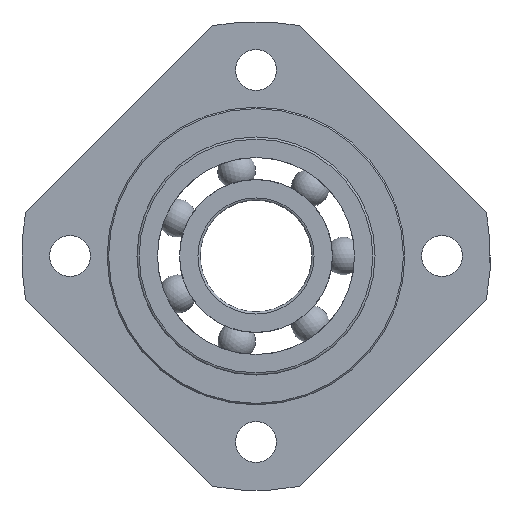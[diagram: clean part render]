
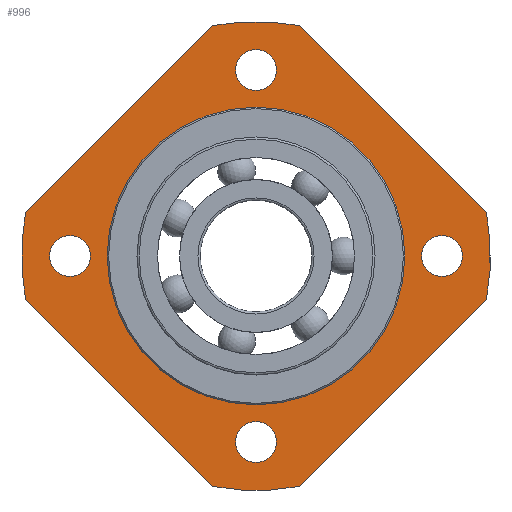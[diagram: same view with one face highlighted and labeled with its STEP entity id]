
A CAD part, left-side view. The second image highlights one B-rep face of the part: STEP entity #996.
In plain terms, the highlighted planar face has unit normal (-1, 0, 0).
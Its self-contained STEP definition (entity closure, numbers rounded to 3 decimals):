
#69=LINE('',#1687,#89);
#73=LINE('',#1696,#93);
#78=LINE('',#1736,#98);
#79=LINE('',#1737,#99);
#89=VECTOR('',#1310,35.567);
#93=VECTOR('',#1320,35.567);
#98=VECTOR('',#1371,35.567);
#99=VECTOR('',#1372,35.567);
#112=PLANE('',#1109);
#164=FACE_BOUND('',#324,.T.);
#165=FACE_BOUND('',#325,.T.);
#166=FACE_BOUND('',#326,.T.);
#167=FACE_BOUND('',#327,.T.);
#168=FACE_BOUND('',#328,.T.);
#232=FACE_OUTER_BOUND('',#323,.T.);
#323=EDGE_LOOP('',(#795,#796,#797,#798,#799,#800,#801,#802));
#324=EDGE_LOOP('',(#803));
#325=EDGE_LOOP('',(#804));
#326=EDGE_LOOP('',(#805));
#327=EDGE_LOOP('',(#806));
#328=EDGE_LOOP('',(#807));
#389=CIRCLE('',#1041,20.);
#412=CIRCLE('',#1085,31.5);
#413=CIRCLE('',#1088,31.5);
#415=CIRCLE('',#1092,2.75);
#417=CIRCLE('',#1096,2.75);
#419=CIRCLE('',#1100,2.75);
#421=CIRCLE('',#1104,2.75);
#422=CIRCLE('',#1106,31.5);
#423=CIRCLE('',#1108,31.5);
#480=VERTEX_POINT('',#1570);
#511=VERTEX_POINT('',#1684);
#512=VERTEX_POINT('',#1686);
#513=VERTEX_POINT('',#1690);
#514=VERTEX_POINT('',#1694);
#515=VERTEX_POINT('',#1698);
#517=VERTEX_POINT('',#1705);
#519=VERTEX_POINT('',#1711);
#521=VERTEX_POINT('',#1717);
#523=VERTEX_POINT('',#1723);
#524=VERTEX_POINT('',#1726);
#525=VERTEX_POINT('',#1730);
#526=VERTEX_POINT('',#1732);
#569=EDGE_CURVE('',#480,#480,#389,.T.);
#609=EDGE_CURVE('',#511,#512,#69,.T.);
#612=EDGE_CURVE('',#511,#513,#412,.T.);
#614=EDGE_CURVE('',#514,#513,#73,.T.);
#616=EDGE_CURVE('',#514,#515,#413,.T.);
#618=EDGE_CURVE('',#517,#517,#415,.T.);
#620=EDGE_CURVE('',#519,#519,#417,.T.);
#622=EDGE_CURVE('',#521,#521,#419,.T.);
#624=EDGE_CURVE('',#523,#523,#421,.T.);
#625=EDGE_CURVE('',#524,#512,#422,.T.);
#628=EDGE_CURVE('',#526,#525,#423,.T.);
#630=EDGE_CURVE('',#526,#515,#78,.T.);
#631=EDGE_CURVE('',#524,#525,#79,.T.);
#795=ORIENTED_EDGE('',*,*,#612,.T.);
#796=ORIENTED_EDGE('',*,*,#614,.F.);
#797=ORIENTED_EDGE('',*,*,#616,.T.);
#798=ORIENTED_EDGE('',*,*,#630,.F.);
#799=ORIENTED_EDGE('',*,*,#628,.T.);
#800=ORIENTED_EDGE('',*,*,#631,.F.);
#801=ORIENTED_EDGE('',*,*,#625,.T.);
#802=ORIENTED_EDGE('',*,*,#609,.F.);
#803=ORIENTED_EDGE('',*,*,#569,.T.);
#804=ORIENTED_EDGE('',*,*,#618,.T.);
#805=ORIENTED_EDGE('',*,*,#620,.T.);
#806=ORIENTED_EDGE('',*,*,#622,.T.);
#807=ORIENTED_EDGE('',*,*,#624,.T.);
#996=ADVANCED_FACE('',(#232,#164,#165,#166,#167,#168),#112,.F.);
#1041=AXIS2_PLACEMENT_3D('',#1571,#1215,#1216);
#1085=AXIS2_PLACEMENT_3D('',#1692,#1315,#1316);
#1088=AXIS2_PLACEMENT_3D('',#1700,#1324,#1325);
#1092=AXIS2_PLACEMENT_3D('',#1706,#1332,#1333);
#1096=AXIS2_PLACEMENT_3D('',#1712,#1340,#1341);
#1100=AXIS2_PLACEMENT_3D('',#1718,#1348,#1349);
#1104=AXIS2_PLACEMENT_3D('',#1724,#1356,#1357);
#1106=AXIS2_PLACEMENT_3D('',#1727,#1360,#1361);
#1108=AXIS2_PLACEMENT_3D('',#1733,#1366,#1367);
#1109=AXIS2_PLACEMENT_3D('',#1735,#1369,#1370);
#1215=DIRECTION('center_axis',(1.,0.,0.));
#1216=DIRECTION('ref_axis',(0.,0.,-1.));
#1310=DIRECTION('',(0.,0.707,-0.707));
#1315=DIRECTION('center_axis',(-1.,0.,0.));
#1316=DIRECTION('ref_axis',(0.,0.,1.));
#1320=DIRECTION('',(0.,-0.707,-0.707));
#1324=DIRECTION('center_axis',(-1.,0.,0.));
#1325=DIRECTION('ref_axis',(0.,0.,1.));
#1332=DIRECTION('center_axis',(1.,0.,0.));
#1333=DIRECTION('ref_axis',(0.,0.,-1.));
#1340=DIRECTION('center_axis',(1.,0.,0.));
#1341=DIRECTION('ref_axis',(0.,0.,-1.));
#1348=DIRECTION('center_axis',(1.,0.,0.));
#1349=DIRECTION('ref_axis',(0.,0.,-1.));
#1356=DIRECTION('center_axis',(1.,0.,0.));
#1357=DIRECTION('ref_axis',(0.,0.,-1.));
#1360=DIRECTION('center_axis',(-1.,0.,0.));
#1361=DIRECTION('ref_axis',(0.,0.,1.));
#1366=DIRECTION('center_axis',(-1.,0.,0.));
#1367=DIRECTION('ref_axis',(0.,0.,1.));
#1369=DIRECTION('center_axis',(1.,0.,0.));
#1370=DIRECTION('ref_axis',(0.,0.,-1.));
#1371=DIRECTION('',(0.,-0.707,0.707));
#1372=DIRECTION('',(0.,0.707,0.707));
#1570=CARTESIAN_POINT('',(0.,0.,20.));
#1571=CARTESIAN_POINT('Origin',(0.,0.,0.));
#1684=CARTESIAN_POINT('',(0.,-30.96,-5.81));
#1686=CARTESIAN_POINT('',(0.,-5.81,-30.96));
#1687=CARTESIAN_POINT('',(0.,-36.77,0.));
#1690=CARTESIAN_POINT('',(0.,-30.96,5.81));
#1692=CARTESIAN_POINT('Origin',(0.,0.,0.));
#1694=CARTESIAN_POINT('',(0.,-5.81,30.96));
#1696=CARTESIAN_POINT('',(0.,0.,36.77));
#1698=CARTESIAN_POINT('',(0.,5.81,30.96));
#1700=CARTESIAN_POINT('Origin',(0.,0.,0.));
#1705=CARTESIAN_POINT('',(0.,-25.,2.75));
#1706=CARTESIAN_POINT('Origin',(0.,-25.,0.));
#1711=CARTESIAN_POINT('',(0.,25.,2.75));
#1712=CARTESIAN_POINT('Origin',(0.,25.,0.));
#1717=CARTESIAN_POINT('',(0.,0.,-22.25));
#1718=CARTESIAN_POINT('Origin',(0.,0.,-25.));
#1723=CARTESIAN_POINT('',(0.,0.,27.75));
#1724=CARTESIAN_POINT('Origin',(0.,0.,25.));
#1726=CARTESIAN_POINT('',(0.,5.81,-30.96));
#1727=CARTESIAN_POINT('Origin',(0.,0.,0.));
#1730=CARTESIAN_POINT('',(0.,30.96,-5.81));
#1732=CARTESIAN_POINT('',(0.,30.96,5.81));
#1733=CARTESIAN_POINT('Origin',(0.,0.,0.));
#1735=CARTESIAN_POINT('Origin',(0.,13.,-13.));
#1736=CARTESIAN_POINT('',(0.,36.77,0.));
#1737=CARTESIAN_POINT('',(0.,0.,-36.77));
